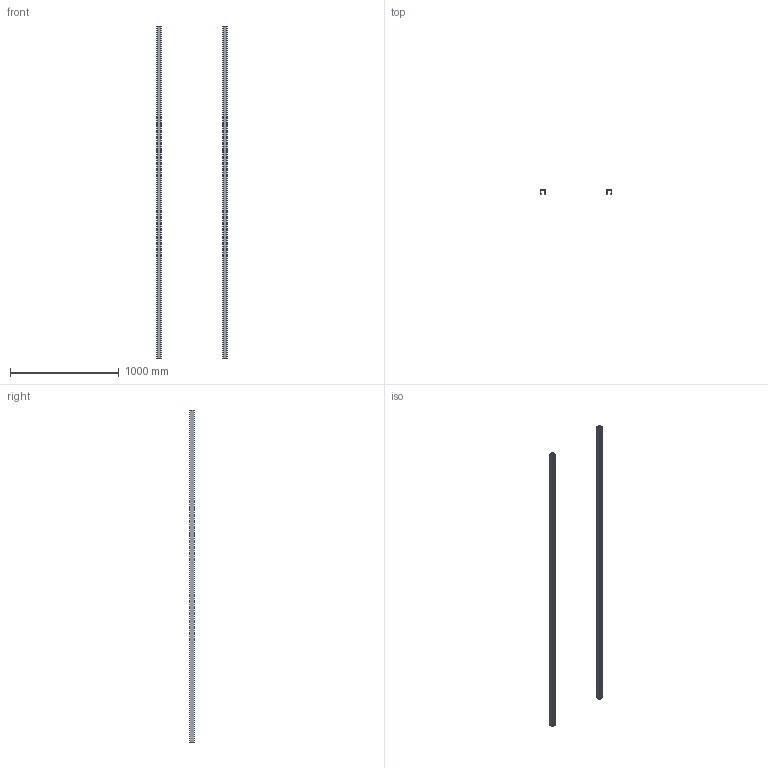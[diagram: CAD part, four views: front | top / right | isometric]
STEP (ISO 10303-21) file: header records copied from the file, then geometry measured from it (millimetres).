
FILE_DESCRIPTION(('Open CASCADE Model'),'2;1');
FILE_NAME('Open CASCADE Shape Model','2026-08-07T04:57:49',('Author'),( 'Open CASCADE'),'Open CASCADE STEP processor 7.9','Open CASCADE 7.9' ,'Unknown');
FILE_SCHEMA(('AUTOMOTIVE_DESIGN { 1 0 10303 214 1 1 1 1 }'));
Length unit declared in the file: millimetre
Products named in the file (3): Open CASCADE STEP translator 7.9 1; Open CASCADE STEP translator 7.9 1.1; Open CASCADE STEP translator 7.9 1.2
Assembly tree (2 placements, depth 2):
  Open CASCADE STEP translator 7.9 1
    Open CASCADE STEP translator 7.9 1.1
    Open CASCADE STEP translator 7.9 1.2
Bounding box: 650.88 x 41.28 x 3048 mm (x, y, z)
Volume: 2314904.8 mm3; surface area: 1774479.6 mm2
Topology: 2 solids, 2 shells, 36 faces, 96 edges, 64 vertices
Faces by surface type: plane 36
Entity records: 2392 total; most frequent: CARTESIAN_POINT 391, DIRECTION 366, LINE 288, VECTOR 288, ORIENTED_EDGE 192, PCURVE 192, DEFINITIONAL_REPRESENTATION 192, EDGE_CURVE 96
